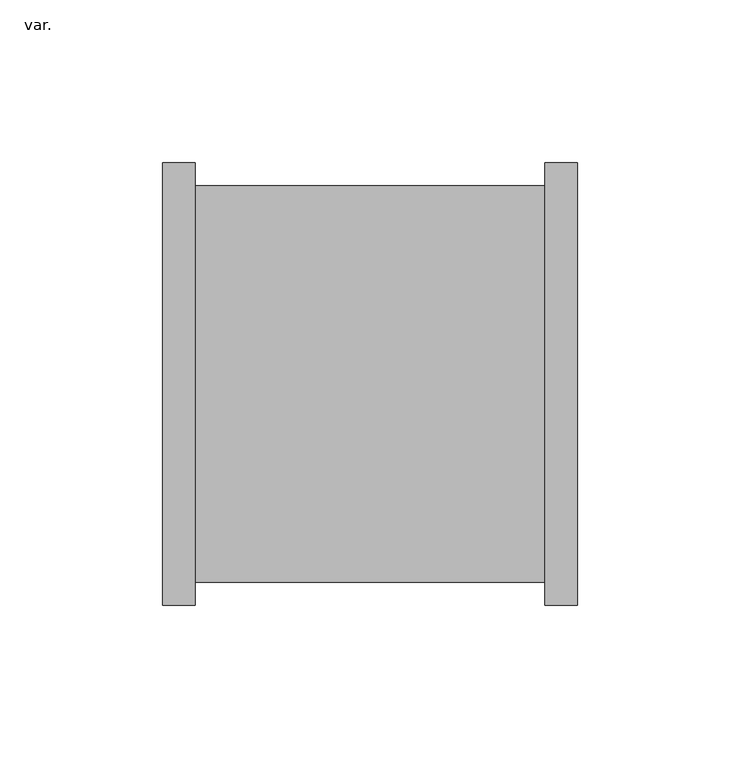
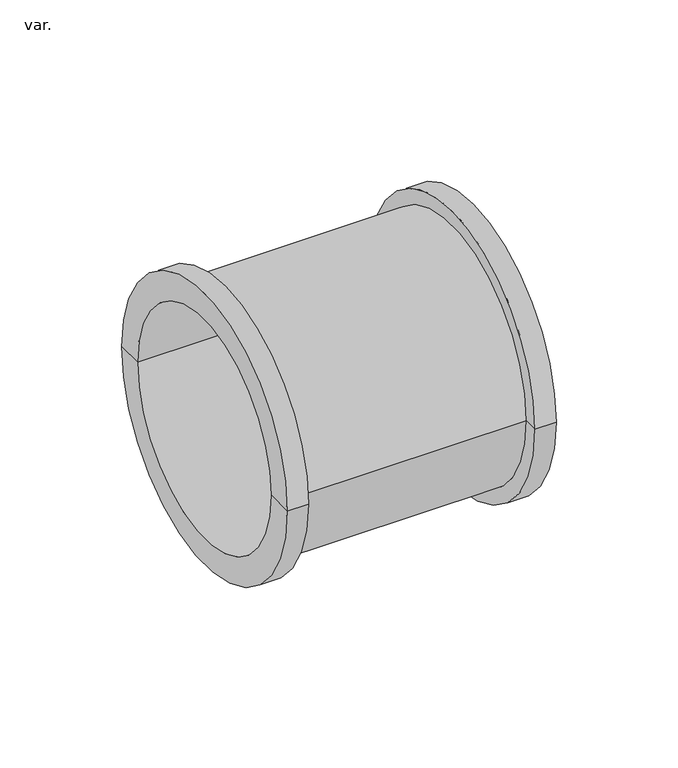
"""IFC4 building model written with IfcOpenShell, lengths in millimetres: pipe fitting geometry, AmancoWavin_ConexõesdeTubos_ÁguaFriaSoldávelLuva : var.."""

from ifc_helpers import new_model, si_unit, frame, origin, place, context, project, spatial, polyline, circle_curve, source, transform, mapped, element, save
from ifc_brep_helpers import plane_surface, cylinder_surface, revolved_surface, advanced_brep


def var_442856bb(model_context):
    return source(origin(), model_context, "Body", "AdvancedBrep", [
        advanced_brep(
        [(-63.75, -55.0, 0.0), (-63.75, 55.0, 0.0), (-63.75, 68.0, 0.0), (-63.75, -68.0, 0.0), (63.75, -55.0, 0.0), (63.75, 55.0, 0.0), (63.75, -68.0, 0.0), (63.75, 68.0, 0.0), (53.75, -68.0, 0.0), (53.75, 68.0, 0.0), (53.75, -61.0, 0.0), (53.75, 61.0, 0.0), (-53.75, -61.0, 0.0), (-53.75, 61.0, 0.0), (-53.75, -68.0, 0.0), (-53.75, 68.0, 0.0)],
        [
            (0, 1, circle_curve(frame((-63.75, 0.0, 0.0), z_axis=(1.0, 0.0, 0.0), x_axis=(0.0, 1.0, 0.0)), 55.0)),
            (1, 2),
            (2, 3, circle_curve(frame((-63.75, 0.0, 0.0), z_axis=(-1.0, 0.0, 0.0), x_axis=(0.0, 1.0, 0.0)), 68.0)),
            (3, 0),
            (1, 0, circle_curve(frame((-63.75, 0.0, 0.0), z_axis=(1.0, 0.0, 0.0), x_axis=(0.0, 1.0, 0.0)), 55.0)),
            (3, 2, circle_curve(frame((-63.75, 0.0, 0.0), z_axis=(-1.0, 0.0, 0.0), x_axis=(0.0, 1.0, 0.0)), 68.0)),
            (4, 5, circle_curve(frame((63.75, 0.0, 0.0), z_axis=(1.0, 0.0, 0.0), x_axis=(0.0, 1.0, 0.0)), 55.0)),
            (5, 1),
            (0, 4),
            (5, 4, circle_curve(frame((63.75, 0.0, 0.0), z_axis=(1.0, 0.0, 0.0), x_axis=(0.0, 1.0, 0.0)), 55.0)),
            (6, 7, circle_curve(frame((63.75, 0.0, 0.0), z_axis=(1.0, 0.0, 0.0), x_axis=(0.0, 1.0, 0.0)), 68.0)),
            (7, 5),
            (4, 6),
            (7, 6, circle_curve(frame((63.75, 0.0, 0.0), z_axis=(1.0, 0.0, 0.0), x_axis=(0.0, 1.0, 0.0)), 68.0)),
            (8, 9, circle_curve(frame((53.75, 0.0, 0.0), z_axis=(1.0, 0.0, 0.0), x_axis=(0.0, 1.0, 0.0)), 68.0)),
            (9, 7),
            (6, 8),
            (9, 8, circle_curve(frame((53.75, 0.0, 0.0), z_axis=(1.0, 0.0, 0.0), x_axis=(0.0, 1.0, 0.0)), 68.0)),
            (10, 11, circle_curve(frame((53.75, 0.0, 0.0), z_axis=(1.0, 0.0, 0.0), x_axis=(0.0, 1.0, 0.0)), 61.0)),
            (11, 9),
            (8, 10),
            (11, 10, circle_curve(frame((53.75, 0.0, 0.0), z_axis=(1.0, 0.0, 0.0), x_axis=(0.0, 1.0, 0.0)), 61.0)),
            (12, 13, circle_curve(frame((-53.75, 0.0, 0.0), z_axis=(1.0, 0.0, 0.0), x_axis=(0.0, 1.0, 0.0)), 61.0)),
            (13, 11),
            (10, 12),
            (13, 12, circle_curve(frame((-53.75, 0.0, 0.0), z_axis=(1.0, 0.0, 0.0), x_axis=(0.0, 1.0, 0.0)), 61.0)),
            (14, 15, circle_curve(frame((-53.75, 0.0, 0.0), z_axis=(1.0, 0.0, 0.0), x_axis=(0.0, 1.0, 0.0)), 68.0)),
            (15, 13),
            (12, 14),
            (15, 14, circle_curve(frame((-53.75, 0.0, 0.0), z_axis=(1.0, 0.0, 0.0), x_axis=(0.0, 1.0, 0.0)), 68.0)),
            (2, 15),
            (14, 3),
        ],
        [
            plane_surface(frame((-63.75, 0.0, 0.0), z_axis=(-1.0, 0.0, 0.0), x_axis=(0.0, 1.0, 0.0))),
            revolved_surface(polyline([(-63.75, 55.0, 0.0), (63.75, 55.0, 0.0)]), (-2000.0, 0.0, 0.0), (-1.0, 0.0, 0.0)),
            plane_surface(frame((63.75, 0.0, 0.0), z_axis=(1.0, 0.0, 0.0), x_axis=(0.0, 1.0, 0.0))),
            cylinder_surface(frame((-2000.0, 0.0, 0.0), z_axis=(-1.0, 0.0, 0.0), x_axis=(0.0, 1.0, 0.0)), 68.0),
            plane_surface(frame((53.75, 0.0, 0.0), z_axis=(-1.0, 0.0, 0.0), x_axis=(0.0, 1.0, 0.0))),
            cylinder_surface(frame((-2000.0, 0.0, 0.0), z_axis=(-1.0, 0.0, 0.0), x_axis=(0.0, 1.0, 0.0)), 61.0),
            plane_surface(frame((-53.75, 0.0, 0.0), z_axis=(1.0, 0.0, 0.0), x_axis=(0.0, 1.0, 0.0))),
        ],
        [
            (0, [[1, 2, 3, 4]]),
            (0, [[5, -4, 6, -2]]),
            (1, [[7, 8, -1, 9]]),
            (1, [[10, -9, -5, -8]]),
            (2, [[11, 12, -7, 13]]),
            (2, [[14, -13, -10, -12]]),
            (3, [[15, 16, -11, 17]]),
            (3, [[18, -17, -14, -16]]),
            (4, [[19, 20, -15, 21]]),
            (4, [[22, -21, -18, -20]]),
            (5, [[23, 24, -19, 25]]),
            (5, [[26, -25, -22, -24]]),
            (6, [[27, 28, -23, 29]]),
            (6, [[30, -29, -26, -28]]),
            (3, [[-3, 31, -27, 32]]),
            (3, [[-6, -32, -30, -31]]),
        ],
    ),
    ])


if __name__ == "__main__":
    model = new_model("IFC4")
    model_context = context("Model", 3, world=origin())
    ifc_project = project(units=[si_unit("LENGTHUNIT", "METRE", prefix="MILLI")], contexts=[model_context])
    site = spatial("IfcSite", under=ifc_project)
    building = spatial("IfcBuilding", under=site)
    placement = place(None, origin())
    var_shape = var_442856bb(model_context)
    element("IfcPipeFitting", 1, ObjectType="AmancoWavin_ConexõesdeTubos_ÁguaFriaSoldávelLuva : var.", at=placement, inside=building, context=model_context, shape_type="MappedRepresentation", body=[
        mapped(var_shape, transform((0.0, 0.0, 0.0), x_axis=(1.0, 0.0, 0.0), y_axis=(0.0, 1.0, 0.0), z_axis=(0.0, 0.0, 1.0))),
    ])
    save(model, "model.ifc")
